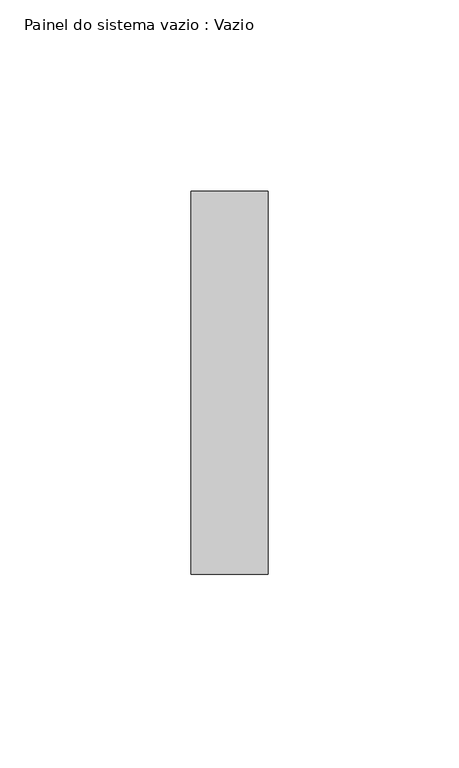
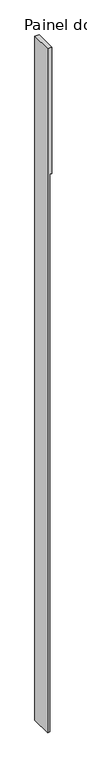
"""IFC4 building model written with IfcOpenShell, lengths in millimetres: plate geometry, Painel do sistema vazio : Vazio."""

from ifc_helpers import new_model, si_unit, frame, origin, place, context, project, spatial, polyline, outline, extrude, source, transform, mapped, element, save


def painel_do_sistema_vazio_vazio_ec5db678(model_context):
    return source(origin(), model_context, "Body", "SweptSolid", [
        extrude(outline(polyline([(0.0, -10.0), (0.0, -3e-07), (2700.0, -3e-07), (2700.0, 10.0), (3310.0, 10.0), (3310.0, -10.0), (0.0, -10.0)])), frame((0.0, -50.0, 0.0), z_axis=(0.0, 1.0, 0.0), x_axis=(0.0, 0.0, 1.0)), (0.0, 0.0, 1.0), 100.0),
    ])


if __name__ == "__main__":
    model = new_model("IFC4")
    model_context = context("Model", 3, world=origin())
    ifc_project = project(units=[si_unit("LENGTHUNIT", "METRE", prefix="MILLI")], contexts=[model_context])
    site = spatial("IfcSite", under=ifc_project)
    building = spatial("IfcBuilding", under=site)
    placement = place(None, origin())
    painel_do_sistema_vazio_vazio_shape = painel_do_sistema_vazio_vazio_ec5db678(model_context)
    element("IfcPlate", 1, ObjectType="Painel do sistema vazio : Vazio", at=placement, inside=building, context=model_context, shape_type="MappedRepresentation", body=[
        mapped(painel_do_sistema_vazio_vazio_shape, transform((0.0, 0.0, 0.0), x_axis=(1.0, 0.0, 0.0), y_axis=(0.0, 1.0, 0.0), z_axis=(0.0, 0.0, 1.0))),
    ])
    save(model, "model.ifc")
